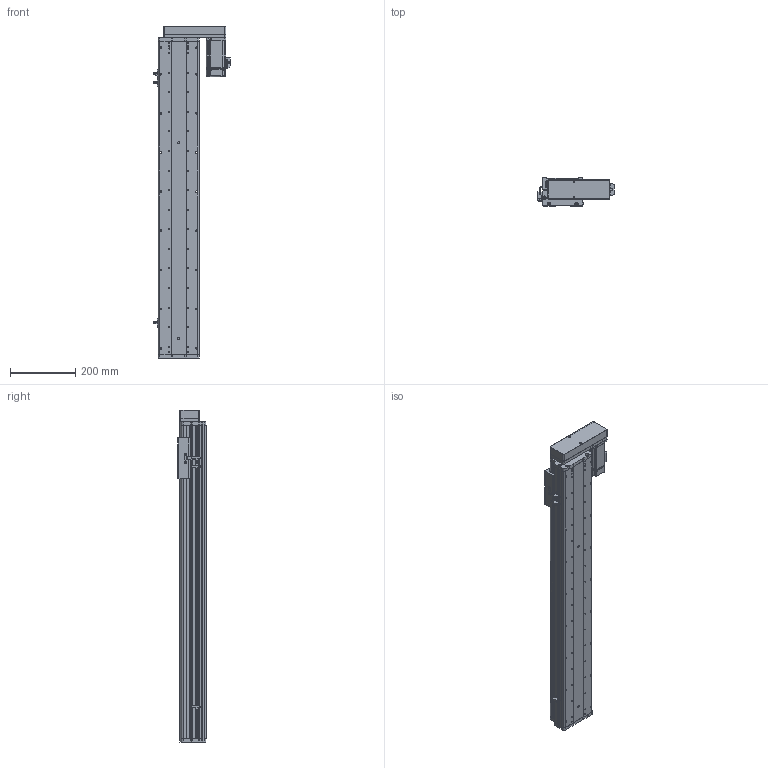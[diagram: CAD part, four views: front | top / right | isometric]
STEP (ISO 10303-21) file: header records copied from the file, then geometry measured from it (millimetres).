
FILE_DESCRIPTION (( 'STEP AP214' ), '1' );
FILE_NAME ('KSD125S-S750-MR-CM.STEP', '2017-10-21T09:01:20', ( '微软用户' ), ( '微软中国' ), 'SwSTEP 2.0', 'SolidWorks 2014', '' );
FILE_SCHEMA (( 'AUTOMOTIVE_DESIGN' ));
Length unit declared in the file: millimetre
Products named in the file (16): 125悵誘欶酘衵殏; KSD125S-750俴最佪裝滅鳥裔; KSD125S-750俴最佪裝菁啣; MHMD042G1CA_2_03; 拸萇儂釱滅袉菜; 拸萇儂釱滅袉菜-1; 覜茼え68遵圉猾敕; U倰嫖萇假蚾璃; U倰嫖萇EEㄜSX672; ヶ傷啣-125遵耀郪; KSD125-賑雄釱1; 125-帣傷啣1; KSD125S-S750-MR-CM; HTPA30S3M150_A_H6_a佪裝蚚; HTPA30S3M150_A_H6_a萇儂蚚; 125宽马达安装板连板左右折丝杆
Assembly tree (19 placements, depth 2):
  KSD125S-S750-MR-CM
    125-帣傷啣1
    KSD125-賑雄釱1
    ヶ傷啣-125遵耀郪
    U倰嫖萇EEㄜSX672  x3
    U倰嫖萇假蚾璃  x3
    覜茼え68遵圉猾敕
    拸萇儂釱滅袉菜-1
    拸萇儂釱滅袉菜
    MHMD042G1CA_2_03
    KSD125S-750俴最佪裝菁啣
    KSD125S-750俴最佪裝滅鳥裔
    125悵誘欶酘衵殏
    125宽马达安装板连板左右折丝杆
    HTPA30S3M150_A_H6_a萇儂蚚
    HTPA30S3M150_A_H6_a佪裝蚚
Bounding box: 234.2 x 86 x 1017.5 mm (x, y, z)
Volume: 3306874.7 mm3; surface area: 1129323.9 mm2
Topology: 18 solids, 21 shells, 2233 faces, 6477 edges, 4273 vertices
Faces by surface type: cylinder 1406, plane 686, cone 119, bspline 22
Entity records: 78911 total; most frequent: CARTESIAN_POINT 16027, DIRECTION 12315, ORIENTED_EDGE 11462, EDGE_CURVE 5809, AXIS2_PLACEMENT_3D 4767, VERTEX_POINT 3865, LINE 2781, VECTOR 2781
